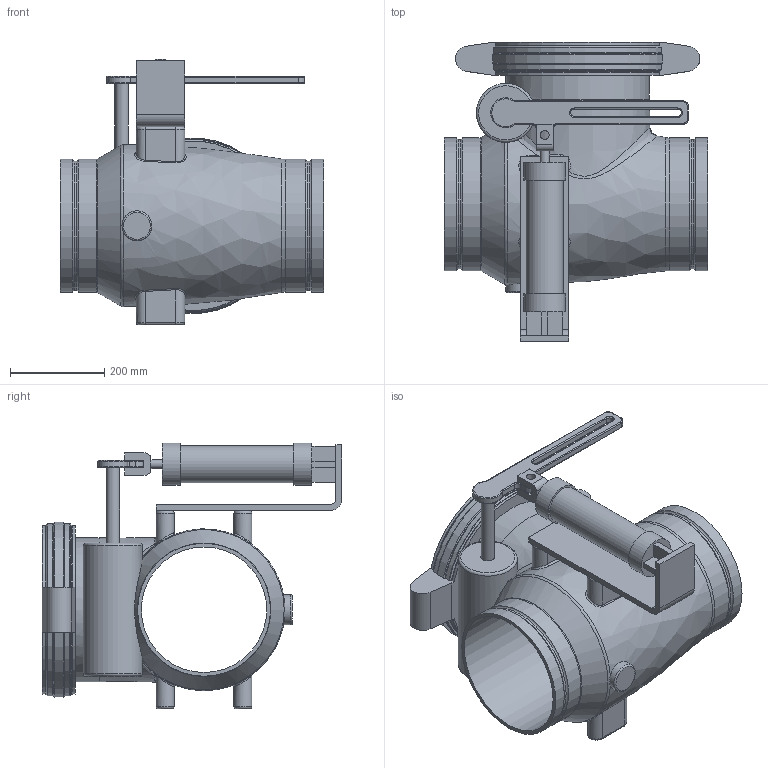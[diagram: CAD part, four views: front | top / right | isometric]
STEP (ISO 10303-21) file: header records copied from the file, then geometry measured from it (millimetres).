
FILE_DESCRIPTION(/* description */ ('VIC AWWA VALVE CHECK AIR CUSHION SERIES 317 (DRG)','CAx-IF Rec.Pracs.---Representation and Presentation of Product Manufacturing Information (PMI)---4.0---2014-10-13'),/* implementation_level */ '2;1');
FILE_NAME(/* name */ 'C:\Users\Vjadhav\Desktop\CAD for Inventor\1\317\STEP\Victaulic_AWWA_Valve Check Air Cushion_Series 317 (DRG)\Victaulic_AWWA_Valve Check Air Cushion_Series 317 (DRG)_10 (250).stp',/* time_stamp */ '2021-10-01T17:33:43+05:00',/* author */ ('jbrannon'),/* organization */ ('Victaulic'),/* preprocessor_version */ 'ST-DEVELOPER v17.2',/* originating_system */ 'Autodesk Inventor 2019',/* authorisation */ '');
FILE_SCHEMA (('AP242_MANAGED_MODEL_BASED_3D_ENGINEERING_MIM_LF { 1 0 10303 442 1 1 4 }'));
Length unit declared in the file: inch
Products named in the file (1): 317-10.0
Bounding box: 558.8 x 635.76 x 563.88 mm (x, y, z)
Volume: 35166600.5 mm3; surface area: 1771803.8 mm2
Topology: 1 solids, 1 shells, 229 faces, 596 edges, 378 vertices
Faces by surface type: cylinder 74, plane 70, torus 49, bspline 26, cone 10
Full cylindrical faces by diameter (mm): 19.05 x1, 19.177 x2, 28.575 x1, 63.5 x1, 78.74 x1, 88.9 x2, 124.968 x1, 266.192 x1, 274.65 x2, 281.94 x4, 304.8 x1
Entity records: 9107 total; most frequent: CARTESIAN_POINT 3201, ORIENTED_EDGE 1194, DIRECTION 1182, EDGE_CURVE 597, AXIS2_PLACEMENT_3D 476, VERTEX_POINT 378, CIRCLE 259, EDGE_LOOP 251
